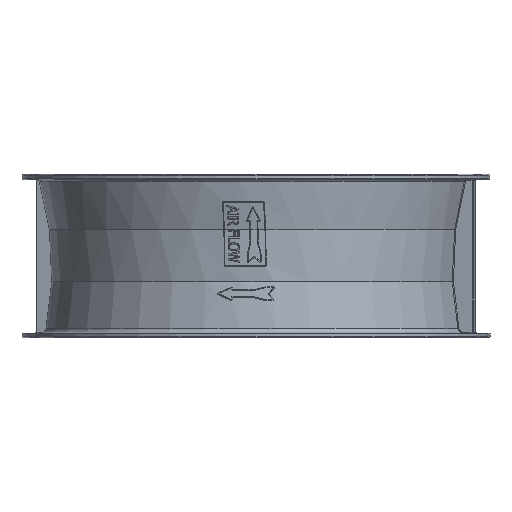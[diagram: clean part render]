
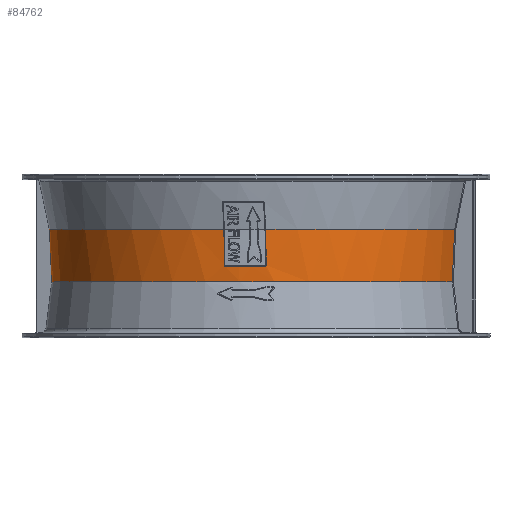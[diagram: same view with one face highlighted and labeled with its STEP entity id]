
A CAD part, front view. The second image highlights one B-rep face of the part: STEP entity #84762.
In plain terms, the highlighted conical face has half-angle 2.603 degrees and reference radius 111.896 mm.
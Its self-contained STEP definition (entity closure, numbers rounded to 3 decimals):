
#1151=CONICAL_SURFACE('',#90155,111.896,0.045);
#5877=CIRCLE('',#90153,112.544);
#5879=CIRCLE('',#90156,112.544);
#5880=CIRCLE('',#90157,111.628);
#5881=CIRCLE('',#90158,111.248);
#7909=FACE_OUTER_BOUND('',#13033,.T.);
#13033=EDGE_LOOP('',(#58652,#58653,#58654,#58655,#58656,#58657,#58658,#58659,
#58660,#58661));
#32863=B_SPLINE_CURVE_WITH_KNOTS('',3,(#112560,#112561,#112562,#112563),
 .UNSPECIFIED.,.F.,.F.,(4,4),(-2.855,0.),.UNSPECIFIED.);
#32907=B_SPLINE_CURVE_WITH_KNOTS('',3,(#113045,#113046,#113047,#113048),
 .UNSPECIFIED.,.F.,.F.,(4,4),(-2.855,0.),.UNSPECIFIED.);
#32923=B_SPLINE_CURVE_WITH_KNOTS('',3,(#113416,#113417,#113418,#113419),
 .UNSPECIFIED.,.F.,.F.,(4,4),(-1.947,0.),.UNSPECIFIED.);
#32924=B_SPLINE_CURVE_WITH_KNOTS('',3,(#113421,#113422,#113423,#113424,
#113425,#113426),.UNSPECIFIED.,.F.,.F.,(4,1,1,4),(0.,0.048,
0.08,0.112),.UNSPECIFIED.);
#32925=B_SPLINE_CURVE_WITH_KNOTS('',3,(#113430,#113431,#113432,#113433,
#113434),.UNSPECIFIED.,.F.,.F.,(4,1,4),(0.,0.055,0.11),
 .UNSPECIFIED.);
#32926=B_SPLINE_CURVE_WITH_KNOTS('',3,(#113435,#113436,#113437,#113438),
 .UNSPECIFIED.,.F.,.F.,(4,4),(-1.947,0.),
 .UNSPECIFIED.);
#36904=VERTEX_POINT('',#112557);
#36905=VERTEX_POINT('',#112559);
#36986=VERTEX_POINT('',#113042);
#36987=VERTEX_POINT('',#113044);
#37017=VERTEX_POINT('',#113404);
#37019=VERTEX_POINT('',#113413);
#37020=VERTEX_POINT('',#113415);
#37021=VERTEX_POINT('',#113420);
#37022=VERTEX_POINT('',#113427);
#37023=VERTEX_POINT('',#113429);
#45306=EDGE_CURVE('',#36904,#36905,#32863,.T.);
#45413=EDGE_CURVE('',#36986,#36987,#32907,.T.);
#45473=EDGE_CURVE('',#36987,#37017,#5877,.T.);
#45476=EDGE_CURVE('',#37019,#36904,#5879,.T.);
#45477=EDGE_CURVE('',#37020,#37019,#32923,.T.);
#45478=EDGE_CURVE('',#37021,#37020,#32924,.T.);
#45479=EDGE_CURVE('',#37022,#37021,#5880,.T.);
#45480=EDGE_CURVE('',#37023,#37022,#32925,.T.);
#45481=EDGE_CURVE('',#37017,#37023,#32926,.T.);
#45482=EDGE_CURVE('',#36905,#36986,#5881,.T.);
#58652=ORIENTED_EDGE('',*,*,#45306,.F.);
#58653=ORIENTED_EDGE('',*,*,#45476,.F.);
#58654=ORIENTED_EDGE('',*,*,#45477,.F.);
#58655=ORIENTED_EDGE('',*,*,#45478,.F.);
#58656=ORIENTED_EDGE('',*,*,#45479,.F.);
#58657=ORIENTED_EDGE('',*,*,#45480,.F.);
#58658=ORIENTED_EDGE('',*,*,#45481,.F.);
#58659=ORIENTED_EDGE('',*,*,#45473,.F.);
#58660=ORIENTED_EDGE('',*,*,#45413,.F.);
#58661=ORIENTED_EDGE('',*,*,#45482,.F.);
#84762=ADVANCED_FACE('',(#7909),#1151,.T.);
#90153=AXIS2_PLACEMENT_3D('',#113405,#95354,#95355);
#90155=AXIS2_PLACEMENT_3D('',#113412,#95358,#95359);
#90156=AXIS2_PLACEMENT_3D('',#113414,#95360,#95361);
#90157=AXIS2_PLACEMENT_3D('',#113428,#95362,#95363);
#90158=AXIS2_PLACEMENT_3D('',#113439,#95364,#95365);
#95354=DIRECTION('center_axis',(0.,1.,0.));
#95355=DIRECTION('ref_axis',(-0.827,0.,0.563));
#95358=DIRECTION('center_axis',(0.,1.,0.));
#95359=DIRECTION('ref_axis',(-1.,0.,0.));
#95360=DIRECTION('center_axis',(0.,1.,0.));
#95361=DIRECTION('ref_axis',(0.62,0.,0.785));
#95362=DIRECTION('center_axis',(0.,1.,0.));
#95363=DIRECTION('ref_axis',(-0.052,0.,
0.999));
#95364=DIRECTION('center_axis',(0.,-1.,0.));
#95365=DIRECTION('ref_axis',(-0.248,0.,0.969));
#112557=CARTESIAN_POINT('',(108.038,58.96,31.527));
#112559=CARTESIAN_POINT('',(106.781,30.442,31.205));
#112560=CARTESIAN_POINT('Ctrl Pts',(108.038,58.96,31.527));
#112561=CARTESIAN_POINT('Ctrl Pts',(107.619,49.454,31.42));
#112562=CARTESIAN_POINT('Ctrl Pts',(107.2,39.948,31.312));
#112563=CARTESIAN_POINT('Ctrl Pts',(106.781,30.442,31.205));
#113042=CARTESIAN_POINT('',(-108.634,30.442,-23.972));
#113044=CARTESIAN_POINT('',(-109.89,58.96,-24.294));
#113045=CARTESIAN_POINT('Ctrl Pts',(-108.634,30.442,
-23.972));
#113046=CARTESIAN_POINT('Ctrl Pts',(-109.053,39.948,
-24.079));
#113047=CARTESIAN_POINT('Ctrl Pts',(-109.472,49.454,
-24.187));
#113048=CARTESIAN_POINT('Ctrl Pts',(-109.89,58.96,
-24.294));
#113404=CARTESIAN_POINT('',(-17.455,58.96,111.182));
#113405=CARTESIAN_POINT('Origin',(0.,58.96,
0.));
#113412=CARTESIAN_POINT('Origin',(0.,44.7,0.));
#113413=CARTESIAN_POINT('',(5.315,58.96,112.418));
#113414=CARTESIAN_POINT('Origin',(0.,58.96,
0.));
#113415=CARTESIAN_POINT('',(5.544,39.509,111.522));
#113416=CARTESIAN_POINT('Ctrl Pts',(5.544,39.509,111.522));
#113417=CARTESIAN_POINT('Ctrl Pts',(5.468,45.993,111.821));
#113418=CARTESIAN_POINT('Ctrl Pts',(5.391,52.476,112.12));
#113419=CARTESIAN_POINT('Ctrl Pts',(5.315,58.96,112.418));
#113420=CARTESIAN_POINT('',(4.823,38.809,111.524));
#113421=CARTESIAN_POINT('Ctrl Pts',(4.823,38.809,111.524));
#113422=CARTESIAN_POINT('Ctrl Pts',(4.982,38.809,111.517));
#113423=CARTESIAN_POINT('Ctrl Pts',(5.249,38.896,111.508));
#113424=CARTESIAN_POINT('Ctrl Pts',(5.496,39.189,111.51));
#113425=CARTESIAN_POINT('Ctrl Pts',(5.546,39.402,111.517));
#113426=CARTESIAN_POINT('Ctrl Pts',(5.544,39.509,111.522));
#113427=CARTESIAN_POINT('',(-16.532,38.809,110.397));
#113428=CARTESIAN_POINT('Origin',(0.,38.809,
0.));
#113429=CARTESIAN_POINT('',(-17.234,39.509,110.322));
#113430=CARTESIAN_POINT('Ctrl Pts',(-17.234,39.509,110.322));
#113431=CARTESIAN_POINT('Ctrl Pts',(-17.232,39.325,
110.314));
#113432=CARTESIAN_POINT('Ctrl Pts',(-17.076,38.96,
110.321));
#113433=CARTESIAN_POINT('Ctrl Pts',(-16.714,38.809,
110.37));
#113434=CARTESIAN_POINT('Ctrl Pts',(-16.532,38.809,
110.397));
#113435=CARTESIAN_POINT('Ctrl Pts',(-17.455,58.96,
111.182));
#113436=CARTESIAN_POINT('Ctrl Pts',(-17.382,52.476,
110.895));
#113437=CARTESIAN_POINT('Ctrl Pts',(-17.308,45.993,
110.608));
#113438=CARTESIAN_POINT('Ctrl Pts',(-17.234,39.509,110.322));
#113439=CARTESIAN_POINT('Origin',(0.,30.442,
0.));
